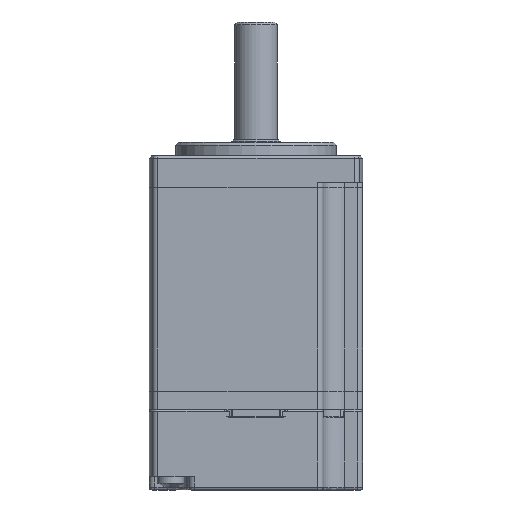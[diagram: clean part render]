
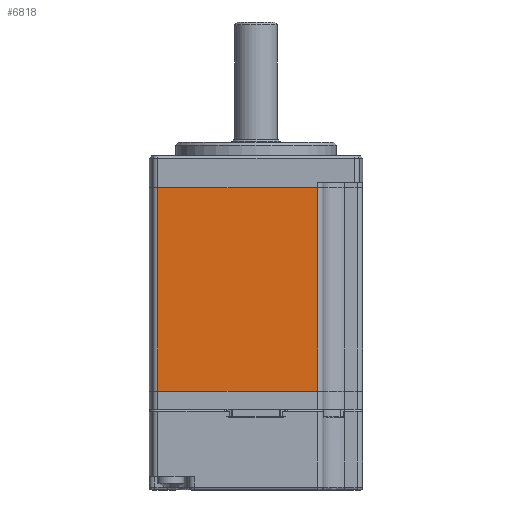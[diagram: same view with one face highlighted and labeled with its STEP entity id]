
A CAD part, front view. The second image highlights one B-rep face of the part: STEP entity #6818.
In plain terms, the highlighted planar face has unit normal (0, 1, 0).
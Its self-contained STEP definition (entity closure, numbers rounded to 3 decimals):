
#151 = EDGE_CURVE ( 'NONE', #9374, #15090, #17459, .T. ) ;
#242 = CARTESIAN_POINT ( 'NONE',  ( -18.397, -20., 38. ) ) ;
#1388 = VECTOR ( 'NONE', #14023, 1000. ) ;
#1748 = FACE_OUTER_BOUND ( 'NONE', #17820, .T. ) ;
#2050 = EDGE_CURVE ( 'NONE', #15090, #10754, #18313, .T. ) ;
#2272 = CARTESIAN_POINT ( 'NONE',  ( -18.397, -20., 0. ) ) ;
#2295 = CARTESIAN_POINT ( 'NONE',  ( 11.5, -20., 38. ) ) ;
#3433 = LINE ( 'NONE', #12108, #16183 ) ;
#3954 = DIRECTION ( 'NONE',  ( 0., 0., -1. ) ) ;
#5730 = VERTEX_POINT ( 'NONE', #19078 ) ;
#6384 = VECTOR ( 'NONE', #7198, 1000. ) ;
#6742 = ORIENTED_EDGE ( 'NONE', *, *, #11855, .T. ) ;
#6818 = ADVANCED_FACE ( 'NONE', ( #1748 ), #17005, .T. ) ;
#7063 = CARTESIAN_POINT ( 'NONE',  ( 20., -20., 38. ) ) ;
#7198 = DIRECTION ( 'NONE',  ( 1., 0., 0. ) ) ;
#7569 = ORIENTED_EDGE ( 'NONE', *, *, #2050, .T. ) ;
#9374 = VERTEX_POINT ( 'NONE', #2272 ) ;
#10714 = EDGE_CURVE ( 'NONE', #5730, #9374, #14143, .T. ) ;
#10754 = VERTEX_POINT ( 'NONE', #2295 ) ;
#11855 = EDGE_CURVE ( 'NONE', #10754, #5730, #3433, .T. ) ;
#11916 = CARTESIAN_POINT ( 'NONE',  ( -18.397, -20., 38. ) ) ;
#12108 = CARTESIAN_POINT ( 'NONE',  ( 11.5, -20., 38. ) ) ;
#12828 = ORIENTED_EDGE ( 'NONE', *, *, #10714, .T. ) ;
#12881 = ORIENTED_EDGE ( 'NONE', *, *, #151, .T. ) ;
#13764 = DIRECTION ( 'NONE',  ( 0., 1., 0. ) ) ;
#14023 = DIRECTION ( 'NONE',  ( -1., 0., 0. ) ) ;
#14143 = LINE ( 'NONE', #20659, #1388 ) ;
#15090 = VERTEX_POINT ( 'NONE', #242 ) ;
#15232 = DIRECTION ( 'NONE',  ( 0., 0., 1. ) ) ;
#16183 = VECTOR ( 'NONE', #3954, 1000. ) ;
#16434 = VECTOR ( 'NONE', #15232, 1000. ) ;
#17005 = PLANE ( 'NONE',  #17898 ) ;
#17459 = LINE ( 'NONE', #11916, #16434 ) ;
#17820 = EDGE_LOOP ( 'NONE', ( #12881, #7569, #6742, #12828 ) ) ;
#17898 = AXIS2_PLACEMENT_3D ( 'NONE', #7063, #13764, #20187 ) ;
#18313 = LINE ( 'NONE', #20183, #6384 ) ;
#19078 = CARTESIAN_POINT ( 'NONE',  ( 11.5, -20., 0. ) ) ;
#20183 = CARTESIAN_POINT ( 'NONE',  ( 20., -20., 38. ) ) ;
#20187 = DIRECTION ( 'NONE',  ( 0., 0., 1. ) ) ;
#20659 = CARTESIAN_POINT ( 'NONE',  ( 20., -20., 0. ) ) ;
